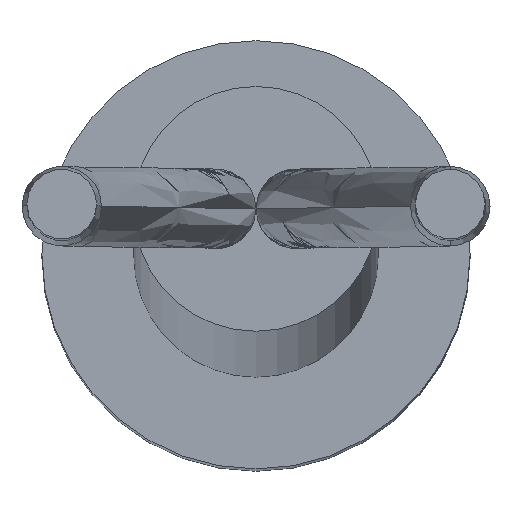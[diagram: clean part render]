
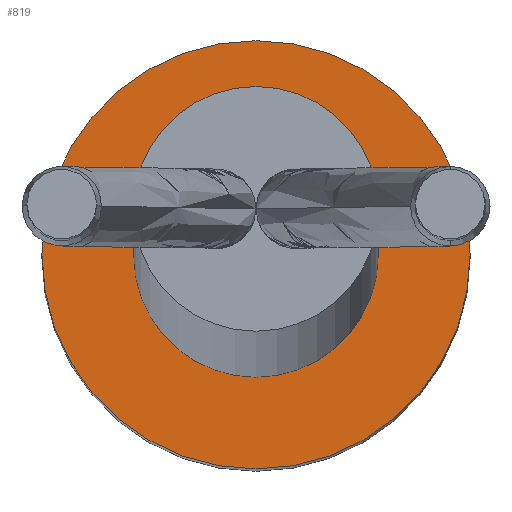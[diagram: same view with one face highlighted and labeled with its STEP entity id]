
A CAD part, top view. The second image highlights one B-rep face of the part: STEP entity #819.
In plain terms, the highlighted planar face has unit normal (0, 0, 1) as drawn and (0, 0, -1) by its records, which use the part's own axes.
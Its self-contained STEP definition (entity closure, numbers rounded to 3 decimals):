
#38 = CARTESIAN_POINT ( 'NONE',  ( 0., 0., 0. ) ) ;
#40 = AXIS2_PLACEMENT_3D ( 'NONE', #579, #935, #1039 ) ;
#85 = CARTESIAN_POINT ( 'NONE',  ( -3.5, 0., 0. ) ) ;
#143 = ORIENTED_EDGE ( 'NONE', *, *, #420, .F. ) ;
#294 = AXIS2_PLACEMENT_3D ( 'NONE', #967, #926, #362 ) ;
#333 = CIRCLE ( 'NONE', #294, 3.5 ) ;
#362 = DIRECTION ( 'NONE',  ( 1., 0., 0. ) ) ;
#380 = DIRECTION ( 'NONE',  ( 0., 0., 1. ) ) ;
#406 = CARTESIAN_POINT ( 'NONE',  ( 3.5, 0., 0. ) ) ;
#420 = EDGE_CURVE ( 'NONE', #946, #558, #333, .T. ) ;
#450 = CIRCLE ( 'NONE', #499, 3.5 ) ;
#499 = AXIS2_PLACEMENT_3D ( 'NONE', #38, #380, #901 ) ;
#558 = VERTEX_POINT ( 'NONE', #85 ) ;
#579 = CARTESIAN_POINT ( 'NONE',  ( 0., 0., 0. ) ) ;
#630 = EDGE_CURVE ( 'NONE', #558, #946, #450, .T. ) ;
#819 = ADVANCED_FACE ( 'NONE', ( #859 ), #871, .F. ) ;
#826 = EDGE_LOOP ( 'NONE', ( #1042, #143 ) ) ;
#859 = FACE_OUTER_BOUND ( 'NONE', #826, .T. ) ;
#871 = PLANE ( 'NONE',  #40 ) ;
#901 = DIRECTION ( 'NONE',  ( 1., 0., 0. ) ) ;
#926 = DIRECTION ( 'NONE',  ( 0., 0., 1. ) ) ;
#935 = DIRECTION ( 'NONE',  ( 0., 0., 1. ) ) ;
#946 = VERTEX_POINT ( 'NONE', #406 ) ;
#967 = CARTESIAN_POINT ( 'NONE',  ( 0., 0., 0. ) ) ;
#1039 = DIRECTION ( 'NONE',  ( 1., 0., 0. ) ) ;
#1042 = ORIENTED_EDGE ( 'NONE', *, *, #630, .F. ) ;
